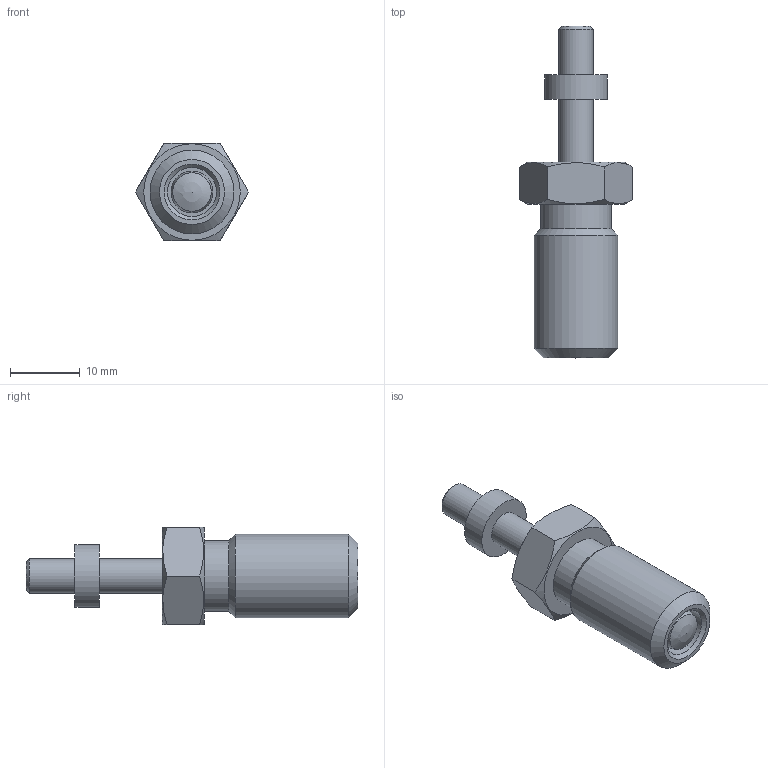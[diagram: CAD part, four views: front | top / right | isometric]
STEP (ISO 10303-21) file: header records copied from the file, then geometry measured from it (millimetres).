
FILE_DESCRIPTION( ( 'STEP AP203' ), '1' );
FILE_NAME( 'C:/Temp/Ganter_Step_05_03_2020/data/3_1/gn817/gn817_ni-rastbolzen/Stainless steel-Indexing plunger GN 817-6-9-G-NI (activated).stp', '2020-03-12T08:59:49', ( 'License CC BY-ND 4.0' ), ( 'CADENAS' ), ' ', 'PARTsolutions', ' ' );
FILE_SCHEMA( ( 'CONFIG_CONTROL_DESIGN' ) );
Length unit declared in the file: millimetre
Products named in the file (4): Stainless steel-Indexing plunger GN 817-6-9-G-NI (activated); _Stainless steel-Indexing plunger GN 817-6-9-G-NI (activated)-d2; _Stainless steel-Indexing plunger GN 817-6-9-B-NI-2; _Stainless Steel-Indexing plunger GN 817-6-9-G-NI-6
Assembly tree (3 placements, depth 2):
  Stainless steel-Indexing plunger GN 817-6-9-G-NI (activated)
    _Stainless steel-Indexing plunger GN 817-6-9-G-NI (activated)-d2
    _Stainless steel-Indexing plunger GN 817-6-9-B-NI-2
    _Stainless Steel-Indexing plunger GN 817-6-9-G-NI-6
Bounding box: 16.17 x 47.5 x 14 mm (x, y, z)
Volume: 3755.4 mm3; surface area: 3025.2 mm2
Topology: 2 solids, 2 shells, 35 faces, 67 edges, 42 vertices
Faces by surface type: plane 15, cylinder 9, cone 8, torus 2, sphere 1
Full cylindrical faces by diameter (mm): 5 x3, 6 x1, 7 x2, 9 x1, 10.1 x1, 12 x1
Entity records: 1011 total; most frequent: CARTESIAN_POINT 249, DIRECTION 138, ORIENTED_EDGE 90, AXIS2_PLACEMENT_3D 66, EDGE_LOOP 62, FACE_OUTER_BOUND 46, EDGE_CURVE 45, VERTEX_POINT 40
